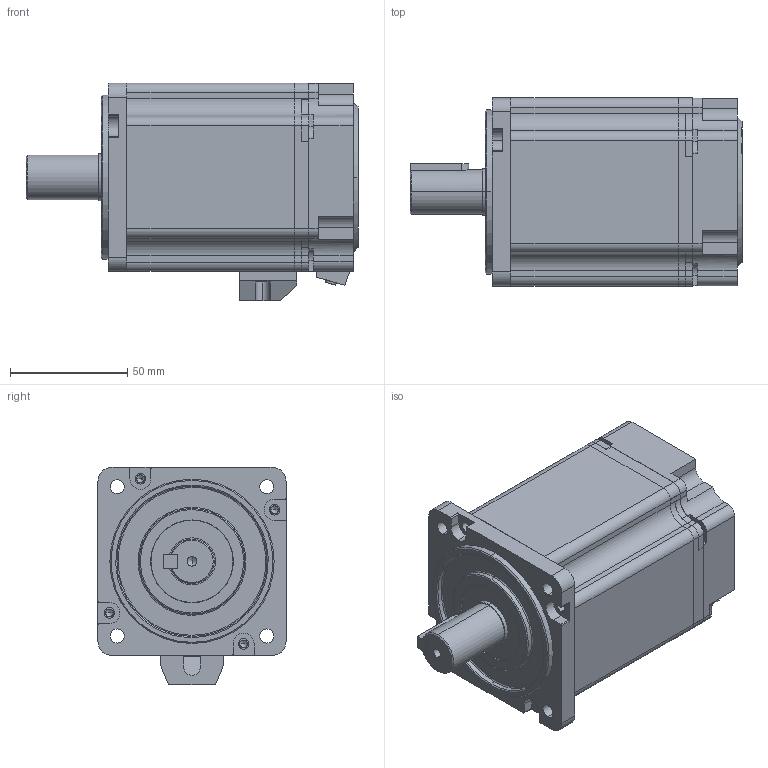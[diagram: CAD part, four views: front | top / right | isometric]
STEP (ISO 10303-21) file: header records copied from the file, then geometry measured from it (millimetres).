
FILE_DESCRIPTION (( 'STEP AP203' ), '1' );
FILE_NAME ('DSMD-08-0830A-G321-N.STEP', '2023-09-07T06:52:27', ( 'Admin' ), ( '' ), 'SwSTEP 2.0', 'SolidWorks 2018', '' );
FILE_SCHEMA (( 'CONFIG_CONTROL_DESIGN' ));
Length unit declared in the file: millimetre
Products named in the file (1): DSMD-08-0830A-G321-N
Bounding box: 141.5 x 80.2 x 92.7 mm (x, y, z)
Volume: 227920.3 mm3; surface area: 128728.1 mm2
Topology: 8 solids, 8 shells, 848 faces, 2214 edges, 1387 vertices
Faces by surface type: cylinder 374, plane 282, bspline 123, cone 69
Entity records: 28765 total; most frequent: CARTESIAN_POINT 7861, DIRECTION 4473, ORIENTED_EDGE 4346, EDGE_CURVE 2173, AXIS2_PLACEMENT_3D 1721, VERTEX_POINT 1387, VECTOR 1031, LINE 1031
